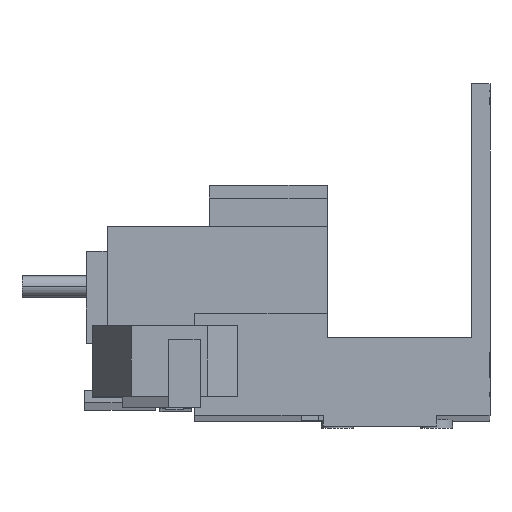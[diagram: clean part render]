
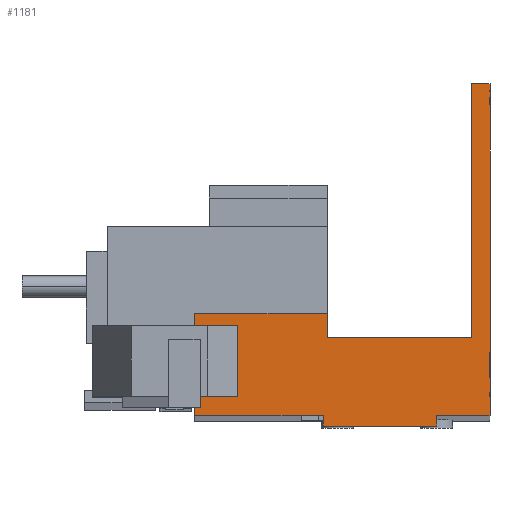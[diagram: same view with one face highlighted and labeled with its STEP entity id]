
A CAD part, front view. The second image highlights one B-rep face of the part: STEP entity #1181.
In plain terms, the highlighted planar face has unit normal (0, -1, 0.002).
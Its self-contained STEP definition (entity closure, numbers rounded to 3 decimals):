
#114 = EDGE_CURVE ( 'NONE', #1812, #1562, #2992, .T. ) ;
#124 = EDGE_CURVE ( 'NONE', #1810, #1812, #3365, .T. ) ;
#131 = EDGE_CURVE ( 'NONE', #1832, #1808, #3118, .T. ) ;
#178 = EDGE_CURVE ( 'NONE', #1808, #1810, #2369, .T. ) ;
#179 = EDGE_CURVE ( 'NONE', #1775, #1932, #2365, .T. ) ;
#180 = EDGE_CURVE ( 'NONE', #1777, #1775, #3095, .T. ) ;
#181 = EDGE_CURVE ( 'NONE', #1777, #2194, #2361, .T. ) ;
#351 = EDGE_CURVE ( 'NONE', #1834, #1832, #2996, .T. ) ;
#358 = EDGE_CURVE ( 'NONE', #1924, #1834, #2931, .T. ) ;
#508 = EDGE_CURVE ( 'NONE', #1823, #1932, #2551, .T. ) ;
#520 = EDGE_CURVE ( 'NONE', #2194, #1924, #2801, .T. ) ;
#530 = EDGE_CURVE ( 'NONE', #1562, #1823, #2762, .T. ) ;
#914 = AXIS2_PLACEMENT_3D ( 'NONE', #3713, #3721, #3722 ) ;
#1181 = ADVANCED_FACE ( 'NONE', ( #3244 ), #3718, .F. ) ;
#1557 = ORIENTED_EDGE ( 'NONE', *, *, #508, .T. ) ;
#1560 = ORIENTED_EDGE ( 'NONE', *, *, #530, .T. ) ;
#1562 = VERTEX_POINT ( 'NONE', #4994 ) ;
#1775 = VERTEX_POINT ( 'NONE', #5085 ) ;
#1777 = VERTEX_POINT ( 'NONE', #5092 ) ;
#1808 = VERTEX_POINT ( 'NONE', #5103 ) ;
#1810 = VERTEX_POINT ( 'NONE', #5104 ) ;
#1812 = VERTEX_POINT ( 'NONE', #5107 ) ;
#1823 = VERTEX_POINT ( 'NONE', #5112 ) ;
#1832 = VERTEX_POINT ( 'NONE', #5113 ) ;
#1834 = VERTEX_POINT ( 'NONE', #5117 ) ;
#1924 = VERTEX_POINT ( 'NONE', #5156 ) ;
#1932 = VERTEX_POINT ( 'NONE', #5158 ) ;
#2044 = EDGE_LOOP ( 'NONE', ( #2050, #2090, #2127, #1560, #1557, #2298, #2303, #2308, #2188, #2197, #2203, #2219 ) ) ;
#2050 = ORIENTED_EDGE ( 'NONE', *, *, #178, .T. ) ;
#2090 = ORIENTED_EDGE ( 'NONE', *, *, #124, .T. ) ;
#2127 = ORIENTED_EDGE ( 'NONE', *, *, #114, .T. ) ;
#2188 = ORIENTED_EDGE ( 'NONE', *, *, #520, .T. ) ;
#2194 = VERTEX_POINT ( 'NONE', #5216 ) ;
#2197 = ORIENTED_EDGE ( 'NONE', *, *, #358, .T. ) ;
#2203 = ORIENTED_EDGE ( 'NONE', *, *, #351, .T. ) ;
#2219 = ORIENTED_EDGE ( 'NONE', *, *, #131, .T. ) ;
#2298 = ORIENTED_EDGE ( 'NONE', *, *, #179, .F. ) ;
#2303 = ORIENTED_EDGE ( 'NONE', *, *, #180, .F. ) ;
#2308 = ORIENTED_EDGE ( 'NONE', *, *, #181, .T. ) ;
#2359 = VECTOR ( 'NONE', #4390, 1000. ) ;
#2361 = LINE ( 'NONE', #4355, #2668 ) ;
#2363 = VECTOR ( 'NONE', #4387, 1000. ) ;
#2365 = LINE ( 'NONE', #4388, #2359 ) ;
#2369 = LINE ( 'NONE', #4386, #2363 ) ;
#2545 = VECTOR ( 'NONE', #4468, 1000. ) ;
#2551 = LINE ( 'NONE', #4467, #2545 ) ;
#2668 = VECTOR ( 'NONE', #4393, 1000. ) ;
#2756 = VECTOR ( 'NONE', #4514, 1000. ) ;
#2762 = LINE ( 'NONE', #4513, #2756 ) ;
#2795 = VECTOR ( 'NONE', #4494, 1000. ) ;
#2801 = LINE ( 'NONE', #4493, #2795 ) ;
#2926 = VECTOR ( 'NONE', #5356, 1000. ) ;
#2931 = LINE ( 'NONE', #5362, #2926 ) ;
#2992 = LINE ( 'NONE', #4059, #3105 ) ;
#2996 = LINE ( 'NONE', #5353, #3333 ) ;
#3090 = VECTOR ( 'NONE', #4137, 1000. ) ;
#3095 = LINE ( 'NONE', #4358, #3181 ) ;
#3105 = VECTOR ( 'NONE', #4076, 1000. ) ;
#3109 = VECTOR ( 'NONE', #4144, 1000. ) ;
#3118 = LINE ( 'NONE', #4145, #3109 ) ;
#3181 = VECTOR ( 'NONE', #4391, 1000. ) ;
#3244 = FACE_OUTER_BOUND ( 'NONE', #2044, .T. ) ;
#3333 = VECTOR ( 'NONE', #5354, 1000. ) ;
#3365 = LINE ( 'NONE', #4158, #3090 ) ;
#3713 = CARTESIAN_POINT ( 'NONE',  ( 0., -33.076, -36.181 ) ) ;
#3718 = PLANE ( 'NONE',  #914 ) ;
#3721 = DIRECTION ( 'NONE',  ( 0., 1., -0.002 ) ) ;
#3722 = DIRECTION ( 'NONE',  ( -1., 0., 0. ) ) ;
#4059 = CARTESIAN_POINT ( 'NONE',  ( -41.6, -33.046, -21.831 ) ) ;
#4076 = DIRECTION ( 'NONE',  ( -1., 0., 0. ) ) ;
#4137 = DIRECTION ( 'NONE',  ( 0., 0.002, 1. ) ) ;
#4144 = DIRECTION ( 'NONE',  ( 0., -0.002, -1. ) ) ;
#4145 = CARTESIAN_POINT ( 'NONE',  ( -2.55, -33.072, -34.53 ) ) ;
#4158 = CARTESIAN_POINT ( 'NONE',  ( -22.92, -33.046, -21.831 ) ) ;
#4355 = CARTESIAN_POINT ( 'NONE',  ( -7.5, -33.079, -37.681 ) ) ;
#4358 = CARTESIAN_POINT ( 'NONE',  ( -7.5, -33.079, -37.681 ) ) ;
#4386 = CARTESIAN_POINT ( 'NONE',  ( -2., -33.053, -25.181 ) ) ;
#4387 = DIRECTION ( 'NONE',  ( -1., 0., 0. ) ) ;
#4388 = CARTESIAN_POINT ( 'NONE',  ( -23.5, -33.079, -37.681 ) ) ;
#4390 = DIRECTION ( 'NONE',  ( 0., 0.002, 1. ) ) ;
#4391 = DIRECTION ( 'NONE',  ( -1., 0., 0. ) ) ;
#4393 = DIRECTION ( 'NONE',  ( 0., 0.002, 1. ) ) ;
#4467 = CARTESIAN_POINT ( 'NONE',  ( 0., -33.076, -36.181 ) ) ;
#4468 = DIRECTION ( 'NONE',  ( 1., 0., 0. ) ) ;
#4493 = CARTESIAN_POINT ( 'NONE',  ( 0., -33.076, -36.181 ) ) ;
#4494 = DIRECTION ( 'NONE',  ( 1., 0., 0. ) ) ;
#4513 = CARTESIAN_POINT ( 'NONE',  ( -41.6, -33.076, -36.181 ) ) ;
#4514 = DIRECTION ( 'NONE',  ( 0., -0.002, -1. ) ) ;
#4994 = CARTESIAN_POINT ( 'NONE',  ( -41.6, -33.046, -21.831 ) ) ;
#5085 = CARTESIAN_POINT ( 'NONE',  ( -23.5, -33.079, -37.681 ) ) ;
#5092 = CARTESIAN_POINT ( 'NONE',  ( -7.5, -33.079, -37.681 ) ) ;
#5103 = CARTESIAN_POINT ( 'NONE',  ( -2.55, -33.053, -25.181 ) ) ;
#5104 = CARTESIAN_POINT ( 'NONE',  ( -22.92, -33.053, -25.181 ) ) ;
#5107 = CARTESIAN_POINT ( 'NONE',  ( -22.92, -33.046, -21.831 ) ) ;
#5112 = CARTESIAN_POINT ( 'NONE',  ( -41.6, -33.076, -36.181 ) ) ;
#5113 = CARTESIAN_POINT ( 'NONE',  ( -2.55, -32.978, 10.519 ) ) ;
#5117 = CARTESIAN_POINT ( 'NONE',  ( 0., -32.978, 10.519 ) ) ;
#5156 = CARTESIAN_POINT ( 'NONE',  ( 0., -33.076, -36.181 ) ) ;
#5158 = CARTESIAN_POINT ( 'NONE',  ( -23.5, -33.076, -36.181 ) ) ;
#5216 = CARTESIAN_POINT ( 'NONE',  ( -7.5, -33.076, -36.181 ) ) ;
#5353 = CARTESIAN_POINT ( 'NONE',  ( -2.55, -32.978, 10.519 ) ) ;
#5354 = DIRECTION ( 'NONE',  ( -1., 0., 0. ) ) ;
#5356 = DIRECTION ( 'NONE',  ( 0., 0.002, 1. ) ) ;
#5362 = CARTESIAN_POINT ( 'NONE',  ( 0., -32.978, 10.519 ) ) ;
